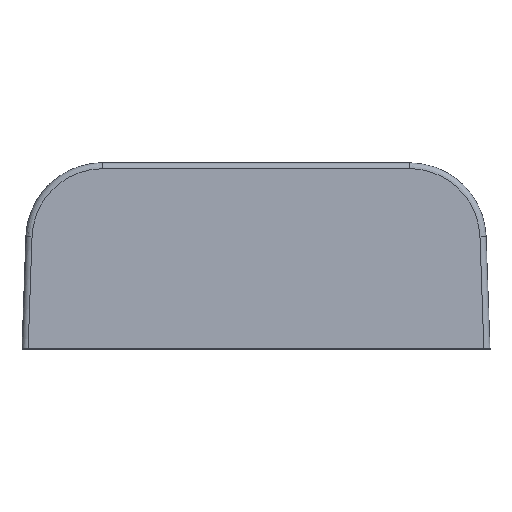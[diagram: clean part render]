
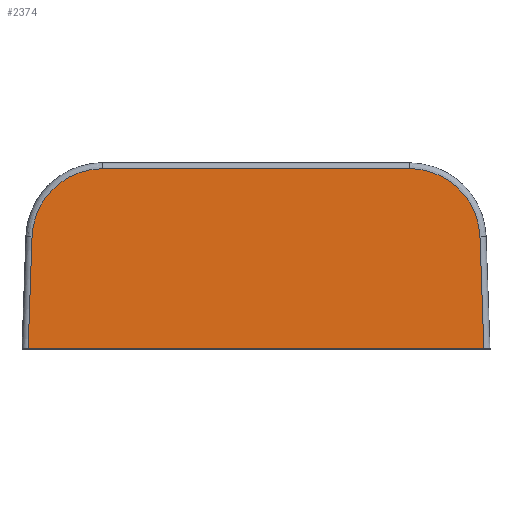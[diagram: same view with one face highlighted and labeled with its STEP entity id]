
A CAD part, top view. The second image highlights one B-rep face of the part: STEP entity #2374.
In plain terms, the highlighted planar face has unit normal (0, 0.035, 0.999).
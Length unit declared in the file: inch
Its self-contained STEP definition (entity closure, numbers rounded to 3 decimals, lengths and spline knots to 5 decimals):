
#451 = ORIENTED_EDGE ( 'NONE', *, *, #4970, .T. ) ;
#669 = CARTESIAN_POINT ( 'NONE',  ( -1.08902, 0.74451, 0.574 ) ) ;
#715 = CARTESIAN_POINT ( 'NONE',  ( -0.94764, 0.88105, 0.56923 ) ) ;
#902 = PLANE ( 'NONE',  #12227 ) ;
#944 = DIRECTION ( 'NONE',  ( 0., 0.035, 0.999 ) ) ;
#1132 = CARTESIAN_POINT ( 'NONE',  ( -0.75109, 0.88105, 0.56923 ) ) ;
#1296 = FACE_OUTER_BOUND ( 'NONE', #11942, .T. ) ;
#1479 = ORIENTED_EDGE ( 'NONE', *, *, #11246, .T. ) ;
#1623 = VERTEX_POINT ( 'NONE', #1132 ) ;
#1975 = ORIENTED_EDGE ( 'NONE', *, *, #5112, .T. ) ;
#2374 = ADVANCED_FACE ( 'NONE', ( #1296 ), #902, .T. ) ;
#2393 = VERTEX_POINT ( 'NONE', #6254 ) ;
#2656 = CARTESIAN_POINT ( 'NONE',  ( -0.75109, 0.88105, 0.56923 ) ) ;
#3656 = LINE ( 'NONE', #10447, #8535 ) ;
#3694 = CARTESIAN_POINT ( 'NONE',  ( 1.08902, 0.74451, 0.574 ) ) ;
#3798 = VECTOR ( 'NONE', #4558, 39.37008 ) ;
#3896 = CARTESIAN_POINT ( 'NONE',  ( -1.145, 0., 0.6 ) ) ;
#4262 = CARTESIAN_POINT ( 'NONE',  ( -1.145, 0., 0.6 ) ) ;
#4558 = DIRECTION ( 'NONE',  ( -1., 0., 0. ) ) ;
#4601 = LINE ( 'NONE', #10868, #3798 ) ;
#4661 = VERTEX_POINT ( 'NONE', #11501 ) ;
#4970 = EDGE_CURVE ( 'NONE', #1623, #4661, #11075, .T. ) ;
#5112 = EDGE_CURVE ( 'NONE', #4661, #2393, #9997, .T. ) ;
#5434 = VECTOR ( 'NONE', #12214, 39.37008 ) ;
#5915 = VERTEX_POINT ( 'NONE', #10664 ) ;
#6235 = CARTESIAN_POINT ( 'NONE',  ( 1.09588, 0.54809, 0.58086 ) ) ;
#6254 = CARTESIAN_POINT ( 'NONE',  ( -1.11502, 0., 0.6 ) ) ;
#6311 = ORIENTED_EDGE ( 'NONE', *, *, #8992, .T. ) ;
#7195 = CARTESIAN_POINT ( 'NONE',  ( 0.75109, 0.88105, 0.56923 ) ) ;
#7414 = EDGE_CURVE ( 'NONE', #7479, #12840, #11316, .T. ) ;
#7479 = VERTEX_POINT ( 'NONE', #6235 ) ;
#7722 = VECTOR ( 'NONE', #8324, 39.37008 ) ;
#8018 = CARTESIAN_POINT ( 'NONE',  ( -1.11505, -0.00104, 0.60004 ) ) ;
#8114 = DIRECTION ( 'NONE',  ( 0., -0.999, 0.035 ) ) ;
#8324 = DIRECTION ( 'NONE',  ( 1., 0., 0. ) ) ;
#8535 = VECTOR ( 'NONE', #8557, 39.37008 ) ;
#8557 = DIRECTION ( 'NONE',  ( -0.035, 0.999, -0.035 ) ) ;
#8782 = ORIENTED_EDGE ( 'NONE', *, *, #9852, .T. ) ;
#8992 = EDGE_CURVE ( 'NONE', #5915, #7479, #3656, .T. ) ;
#9388 = ORIENTED_EDGE ( 'NONE', *, *, #7414, .T. ) ;
#9852 = EDGE_CURVE ( 'NONE', #12840, #1623, #4601, .T. ) ;
#9892 = CARTESIAN_POINT ( 'NONE',  ( 0.75109, 0.88105, 0.56923 ) ) ;
#9997 = LINE ( 'NONE', #8018, #5434 ) ;
#10081 = CARTESIAN_POINT ( 'NONE',  ( -1.09588, 0.54809, 0.58086 ) ) ;
#10447 = CARTESIAN_POINT ( 'NONE',  ( 1.11227, 0.07873, 0.59725 ) ) ;
#10664 = CARTESIAN_POINT ( 'NONE',  ( 1.11502, 0., 0.6 ) ) ;
#10868 = CARTESIAN_POINT ( 'NONE',  ( -1.145, 0.88105, 0.56923 ) ) ;
#11075 =( BOUNDED_CURVE ( )  B_SPLINE_CURVE ( 3, ( #2656, #715, #669, #10081 ),
 .UNSPECIFIED., .F., .F. ) 
 B_SPLINE_CURVE_WITH_KNOTS ( ( 4, 4 ),
 ( 0., 1.53589 ),
 .UNSPECIFIED. ) 
 CURVE ( )  GEOMETRIC_REPRESENTATION_ITEM ( )  RATIONAL_B_SPLINE_CURVE ( ( 1., 0.813, 0.813, 1. ) ) 
 REPRESENTATION_ITEM ( '' )  );
#11246 = EDGE_CURVE ( 'NONE', #2393, #5915, #13256, .T. ) ;
#11316 =( BOUNDED_CURVE ( )  B_SPLINE_CURVE ( 3, ( #12334, #3694, #13386, #7195 ),
 .UNSPECIFIED., .F., .F. ) 
 B_SPLINE_CURVE_WITH_KNOTS ( ( 4, 4 ),
 ( 1.6057, 3.14159 ),
 .UNSPECIFIED. ) 
 CURVE ( )  GEOMETRIC_REPRESENTATION_ITEM ( )  RATIONAL_B_SPLINE_CURVE ( ( 1., 0.813, 0.813, 1. ) ) 
 REPRESENTATION_ITEM ( '' )  );
#11501 = CARTESIAN_POINT ( 'NONE',  ( -1.09588, 0.54809, 0.58086 ) ) ;
#11942 = EDGE_LOOP ( 'NONE', ( #1479, #6311, #9388, #8782, #451, #1975 ) ) ;
#12214 = DIRECTION ( 'NONE',  ( -0.035, -0.999, 0.035 ) ) ;
#12227 = AXIS2_PLACEMENT_3D ( 'NONE', #3896, #944, #8114 ) ;
#12334 = CARTESIAN_POINT ( 'NONE',  ( 1.09588, 0.54809, 0.58086 ) ) ;
#12840 = VERTEX_POINT ( 'NONE', #9892 ) ;
#13256 = LINE ( 'NONE', #4262, #7722 ) ;
#13386 = CARTESIAN_POINT ( 'NONE',  ( 0.94764, 0.88105, 0.56923 ) ) ;
